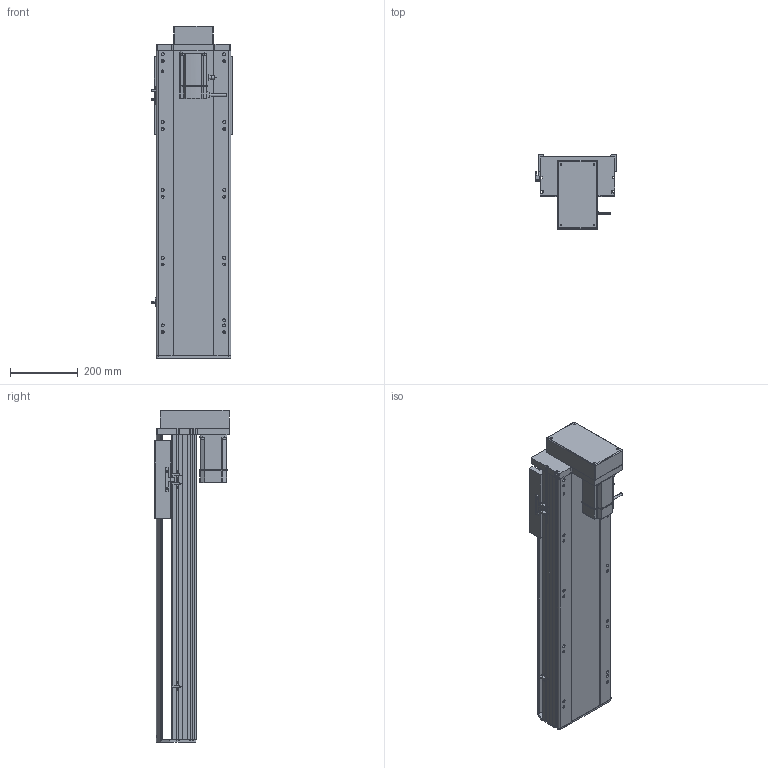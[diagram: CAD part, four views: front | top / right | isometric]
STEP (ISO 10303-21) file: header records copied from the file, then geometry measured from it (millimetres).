
FILE_DESCRIPTION (( 'STEP AP214' ), '1' );
FILE_NAME ('RTH22-XX-600-M-M75-C4.STEP', '2025-10-24T11:08:33', ( 'Microsoft' ), ( 'Microsoft' ), 'SwSTEP 2.0', 'SolidWorks 2018', '' );
FILE_SCHEMA (( 'AUTOMOTIVE_DESIGN' ));
Length unit declared in the file: millimetre
Products named in the file (10): N_RTH22-L-011菁釱^RTH22-XX-XX-M-M75-C4; N_RTH22-L-004-SFS25賑釱^RTH22-XX-XX-M-M75-C4; N_OMRON EE-SX672 传感器^RTH22-XX-XX-M-M75-C4; N_RTH22-M-018裔赽^RTH22-XX-XX-M-M75-C4; N_RTH22-M-007奻裔^RTH22-XX-XX-M-M75-C4; N_RTH22-M-008-P75萇儂啣^RTH22-XX-XX-M-M75-C4; RTH22-XX-600-M-M75-C4; N_RTH22-GY-013外置感应片^RTH22-XX-XX-M-M75-C4; N_750W萇儂^RTH22-XX-XX-M-M75-C4; N_RTH22-GY-001耜裔^RTH22-XX-XX-M-M75-C4
Assembly tree (11 placements, depth 2):
  RTH22-XX-600-M-M75-C4
    N_RTH22-L-011菁釱^RTH22-XX-XX-M-M75-C4
    N_RTH22-GY-001耜裔^RTH22-XX-XX-M-M75-C4
    N_750W萇儂^RTH22-XX-XX-M-M75-C4
    N_RTH22-M-008-P75萇儂啣^RTH22-XX-XX-M-M75-C4
    N_RTH22-M-007奻裔^RTH22-XX-XX-M-M75-C4
    N_RTH22-M-018裔赽^RTH22-XX-XX-M-M75-C4
    N_OMRON EE-SX672 传感器^RTH22-XX-XX-M-M75-C4  x3
    N_RTH22-GY-013外置感应片^RTH22-XX-XX-M-M75-C4
    N_RTH22-L-004-SFS25賑釱^RTH22-XX-XX-M-M75-C4
Bounding box: 238.5 x 218.5 x 979.7 mm (x, y, z)
Volume: 14168848.3 mm3; surface area: 1602274.7 mm2
Topology: 11 solids, 11 shells, 1587 faces, 4330 edges, 2795 vertices
Faces by surface type: plane 803, cylinder 451, bspline 279, cone 54
Entity records: 39683 total; most frequent: CARTESIAN_POINT 12068, ORIENTED_EDGE 5644, DIRECTION 5296, EDGE_CURVE 2822, VERTEX_POINT 1831, LINE 1770, VECTOR 1770, AXIS2_PLACEMENT_3D 1763
